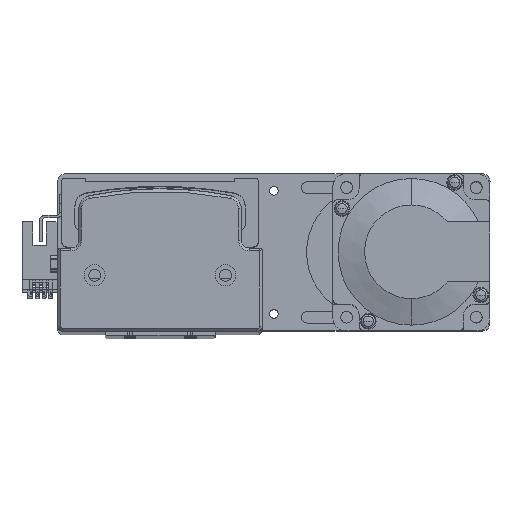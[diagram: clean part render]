
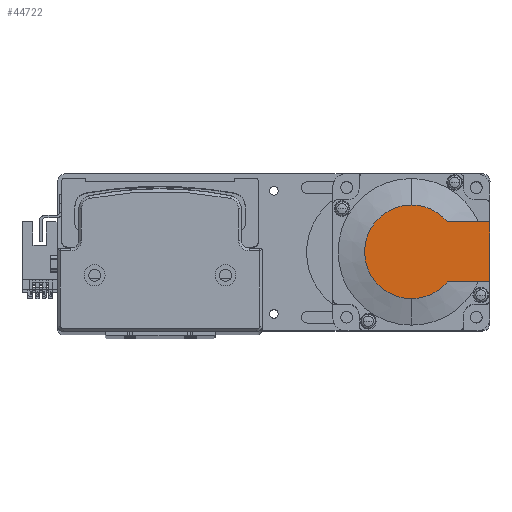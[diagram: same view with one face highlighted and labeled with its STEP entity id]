
A CAD part, top view. The second image highlights one B-rep face of the part: STEP entity #44722.
In plain terms, the highlighted planar face has unit normal (0, 0, 1) as drawn and (-1, 0, 0) by its records, which use the part's own axes.
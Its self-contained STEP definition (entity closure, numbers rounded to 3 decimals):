
#880 = DIRECTION ( 'NONE',  ( -1., 0., 0. ) ) ;
#2593 = ORIENTED_EDGE ( 'NONE', *, *, #40609, .F. ) ;
#2797 = CARTESIAN_POINT ( 'NONE',  ( -118.5, 0., 0. ) ) ;
#3463 = CARTESIAN_POINT ( 'NONE',  ( -118.5, 30., -11.45 ) ) ;
#3827 = EDGE_CURVE ( 'NONE', #42619, #16866, #38358, .T. ) ;
#4035 = CARTESIAN_POINT ( 'NONE',  ( -118.5, 0., 17.881 ) ) ;
#5755 = DIRECTION ( 'NONE',  ( -1., 0., 0. ) ) ;
#6626 = DIRECTION ( 'NONE',  ( 0., 0., -1. ) ) ;
#6897 = EDGE_CURVE ( 'NONE', #15412, #33138, #12439, .T. ) ;
#10775 = ORIENTED_EDGE ( 'NONE', *, *, #29755, .F. ) ;
#12439 = LINE ( 'NONE', #19808, #31875 ) ;
#12550 = CARTESIAN_POINT ( 'NONE',  ( -118.5, 30., 11.45 ) ) ;
#13078 = CIRCLE ( 'NONE', #42514, 17.881 ) ;
#15412 = VERTEX_POINT ( 'NONE', #3463 ) ;
#15624 = ORIENTED_EDGE ( 'NONE', *, *, #26821, .T. ) ;
#16617 = VERTEX_POINT ( 'NONE', #25693 ) ;
#16866 = VERTEX_POINT ( 'NONE', #4035 ) ;
#17926 = EDGE_CURVE ( 'NONE', #33138, #42619, #13078, .T. ) ;
#19005 = FACE_OUTER_BOUND ( 'NONE', #29775, .T. ) ;
#19449 = AXIS2_PLACEMENT_3D ( 'NONE', #23988, #880, #27871 ) ;
#19762 = ORIENTED_EDGE ( 'NONE', *, *, #17926, .T. ) ;
#19808 = CARTESIAN_POINT ( 'NONE',  ( -118.5, -8.941, -11.45 ) ) ;
#22373 = AXIS2_PLACEMENT_3D ( 'NONE', #2797, #29821, #6626 ) ;
#22442 = CARTESIAN_POINT ( 'NONE',  ( -118.5, 0., 11.45 ) ) ;
#22444 = DIRECTION ( 'NONE',  ( -1., 0., 0. ) ) ;
#22488 = VECTOR ( 'NONE', #26467, 1000. ) ;
#23988 = CARTESIAN_POINT ( 'NONE',  ( -118.5, -8.941, 0. ) ) ;
#25309 = VERTEX_POINT ( 'NONE', #12550 ) ;
#25693 = CARTESIAN_POINT ( 'NONE',  ( -118.5, 13.735, 11.45 ) ) ;
#26467 = DIRECTION ( 'NONE',  ( 0., -1., 0. ) ) ;
#26775 = ORIENTED_EDGE ( 'NONE', *, *, #6897, .T. ) ;
#26821 = EDGE_CURVE ( 'NONE', #16866, #16617, #42573, .T. ) ;
#27520 = PLANE ( 'NONE',  #19449 ) ;
#27871 = DIRECTION ( 'NONE',  ( 0., 0., 1. ) ) ;
#28675 = CARTESIAN_POINT ( 'NONE',  ( -118.5, 30., 25. ) ) ;
#28932 = CARTESIAN_POINT ( 'NONE',  ( -118.5, 0., 0. ) ) ;
#29270 = VECTOR ( 'NONE', #32608, 1000. ) ;
#29755 = EDGE_CURVE ( 'NONE', #15412, #25309, #39547, .T. ) ;
#29775 = EDGE_LOOP ( 'NONE', ( #26775, #19762, #34512, #15624, #2593, #10775 ) ) ;
#29821 = DIRECTION ( 'NONE',  ( -1., 0., 0. ) ) ;
#31875 = VECTOR ( 'NONE', #46807, 1000. ) ;
#32608 = DIRECTION ( 'NONE',  ( 0., 0., 1. ) ) ;
#32870 = DIRECTION ( 'NONE',  ( 0., 0., -1. ) ) ;
#33138 = VERTEX_POINT ( 'NONE', #33560 ) ;
#33560 = CARTESIAN_POINT ( 'NONE',  ( -118.5, 13.735, -11.45 ) ) ;
#34512 = ORIENTED_EDGE ( 'NONE', *, *, #3827, .T. ) ;
#37536 = AXIS2_PLACEMENT_3D ( 'NONE', #45588, #22444, #49518 ) ;
#38358 = CIRCLE ( 'NONE', #37536, 17.881 ) ;
#39547 = LINE ( 'NONE', #28675, #29270 ) ;
#40609 = EDGE_CURVE ( 'NONE', #25309, #16617, #43065, .T. ) ;
#41109 = CARTESIAN_POINT ( 'NONE',  ( -118.5, 0., -17.881 ) ) ;
#42514 = AXIS2_PLACEMENT_3D ( 'NONE', #28932, #5755, #32870 ) ;
#42573 = CIRCLE ( 'NONE', #22373, 17.881 ) ;
#42619 = VERTEX_POINT ( 'NONE', #41109 ) ;
#43065 = LINE ( 'NONE', #22442, #22488 ) ;
#44722 = ADVANCED_FACE ( 'NONE', ( #19005 ), #27520, .T. ) ;
#45588 = CARTESIAN_POINT ( 'NONE',  ( -118.5, 0., 0. ) ) ;
#46807 = DIRECTION ( 'NONE',  ( 0., -1., 0. ) ) ;
#49518 = DIRECTION ( 'NONE',  ( 0., 0., -1. ) ) ;
